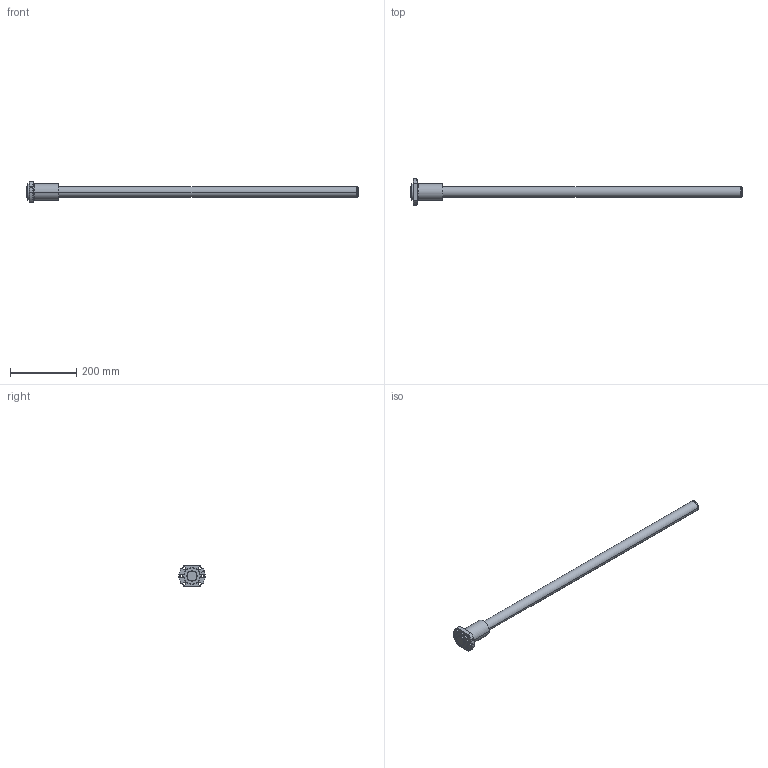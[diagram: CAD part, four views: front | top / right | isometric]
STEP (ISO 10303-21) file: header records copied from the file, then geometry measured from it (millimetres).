
FILE_DESCRIPTION( ( '' ), '1' );
FILE_NAME( 'C:/Users/v3-771-32344/Desktop/EBB STEP/EBB 3210-4 RRNone+1000L C7(896070)-ebb3.stp', '2015-08-27T13:38:51', ( '' ), ( '' ), ' ', ' ', ' ' );
FILE_SCHEMA( ( 'CONFIG_CONTROL_DESIGN' ) );
Length unit declared in the file: millimetre
Products named in the file (2): 1; 2
Bounding box: 1000 x 80 x 62 mm (x, y, z)
Volume: 936061.9 mm3; surface area: 137184.9 mm2
Topology: 2 solids, 2 shells, 67 faces, 155 edges, 99 vertices
Faces by surface type: cylinder 36, cone 18, plane 13
Entity records: 2167 total; most frequent: CARTESIAN_POINT 473, DIRECTION 366, ORIENTED_EDGE 310, AXIS2_PLACEMENT_3D 155, EDGE_CURVE 155, VERTEX_POINT 99, EDGE_LOOP 90, CIRCLE 86
